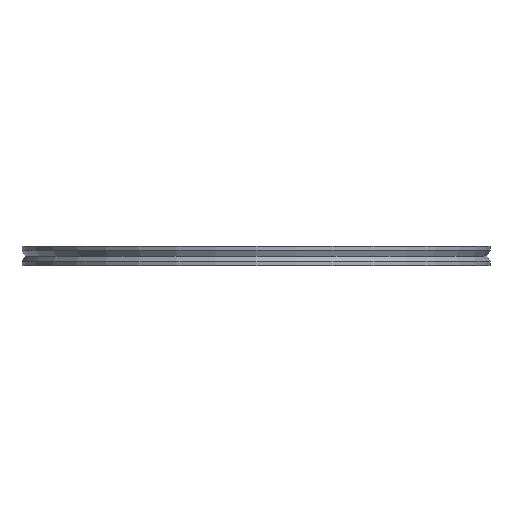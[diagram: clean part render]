
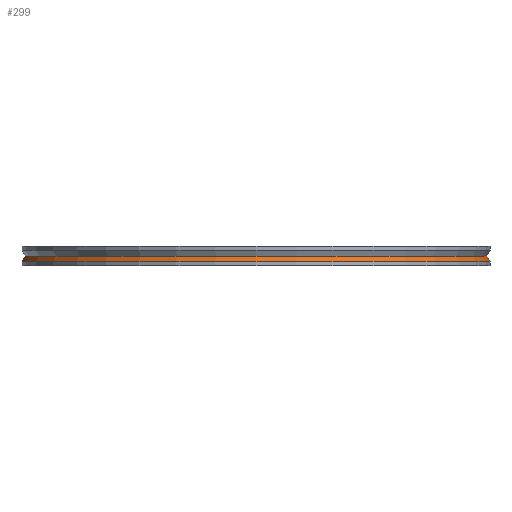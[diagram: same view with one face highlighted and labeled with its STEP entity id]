
A CAD part, front view. The second image highlights one B-rep face of the part: STEP entity #299.
In plain terms, the highlighted conical face has half-angle 27.5 degrees and reference radius 151 mm.
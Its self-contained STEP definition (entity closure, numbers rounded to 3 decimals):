
#25 = CIRCLE ( 'NONE', #772, 153. ) ;
#66 = CARTESIAN_POINT ( 'NONE',  ( 0., 0., -10.092 ) ) ;
#173 = VERTEX_POINT ( 'NONE', #1767 ) ;
#191 = CIRCLE ( 'NONE', #1622, 151. ) ;
#240 = LINE ( 'NONE', #1698, #1327 ) ;
#258 = ORIENTED_EDGE ( 'NONE', *, *, #583, .F. ) ;
#259 = CONICAL_SURFACE ( 'NONE', #1502, 151., 0.48 ) ;
#260 = VERTEX_POINT ( 'NONE', #1881 ) ;
#299 = ADVANCED_FACE ( 'NONE', ( #487 ), #259, .T. ) ;
#337 = EDGE_LOOP ( 'NONE', ( #544, #258, #614, #1468 ) ) ;
#407 = DIRECTION ( 'NONE',  ( 0., 0., 1. ) ) ;
#450 = EDGE_CURVE ( 'NONE', #1271, #1884, #1136, .T. ) ;
#487 = FACE_OUTER_BOUND ( 'NONE', #337, .T. ) ;
#544 = ORIENTED_EDGE ( 'NONE', *, *, #450, .F. ) ;
#583 = EDGE_CURVE ( 'NONE', #173, #1271, #191, .T. ) ;
#614 = ORIENTED_EDGE ( 'NONE', *, *, #1747, .T. ) ;
#715 = DIRECTION ( 'NONE',  ( 1., 0., 0. ) ) ;
#772 = AXIS2_PLACEMENT_3D ( 'NONE', #66, #954, #1421 ) ;
#809 = DIRECTION ( 'NONE',  ( -0.462, 0., -0.887 ) ) ;
#954 = DIRECTION ( 'NONE',  ( 0., 0., 1. ) ) ;
#1136 = LINE ( 'NONE', #1243, #1803 ) ;
#1157 = CARTESIAN_POINT ( 'NONE',  ( 151., 0., -6.25 ) ) ;
#1172 = CARTESIAN_POINT ( 'NONE',  ( 0., 0., -6.25 ) ) ;
#1196 = CARTESIAN_POINT ( 'NONE',  ( 0., 0., -6.25 ) ) ;
#1243 = CARTESIAN_POINT ( 'NONE',  ( 151., 0., -6.25 ) ) ;
#1271 = VERTEX_POINT ( 'NONE', #1157 ) ;
#1327 = VECTOR ( 'NONE', #809, 1000. ) ;
#1421 = DIRECTION ( 'NONE',  ( 1., 0., 0. ) ) ;
#1468 = ORIENTED_EDGE ( 'NONE', *, *, #1780, .T. ) ;
#1487 = CARTESIAN_POINT ( 'NONE',  ( 153., 0., -10.092 ) ) ;
#1502 = AXIS2_PLACEMENT_3D ( 'NONE', #1196, #1784, #1671 ) ;
#1622 = AXIS2_PLACEMENT_3D ( 'NONE', #1172, #407, #715 ) ;
#1671 = DIRECTION ( 'NONE',  ( -1., 0., 0. ) ) ;
#1698 = CARTESIAN_POINT ( 'NONE',  ( -151., 0., -6.25 ) ) ;
#1719 = DIRECTION ( 'NONE',  ( 0.462, 0., -0.887 ) ) ;
#1747 = EDGE_CURVE ( 'NONE', #173, #260, #240, .T. ) ;
#1767 = CARTESIAN_POINT ( 'NONE',  ( -151., 0., -6.25 ) ) ;
#1780 = EDGE_CURVE ( 'NONE', #260, #1884, #25, .T. ) ;
#1784 = DIRECTION ( 'NONE',  ( 0., 0., -1. ) ) ;
#1803 = VECTOR ( 'NONE', #1719, 1000. ) ;
#1881 = CARTESIAN_POINT ( 'NONE',  ( -153., 0., -10.092 ) ) ;
#1884 = VERTEX_POINT ( 'NONE', #1487 ) ;
